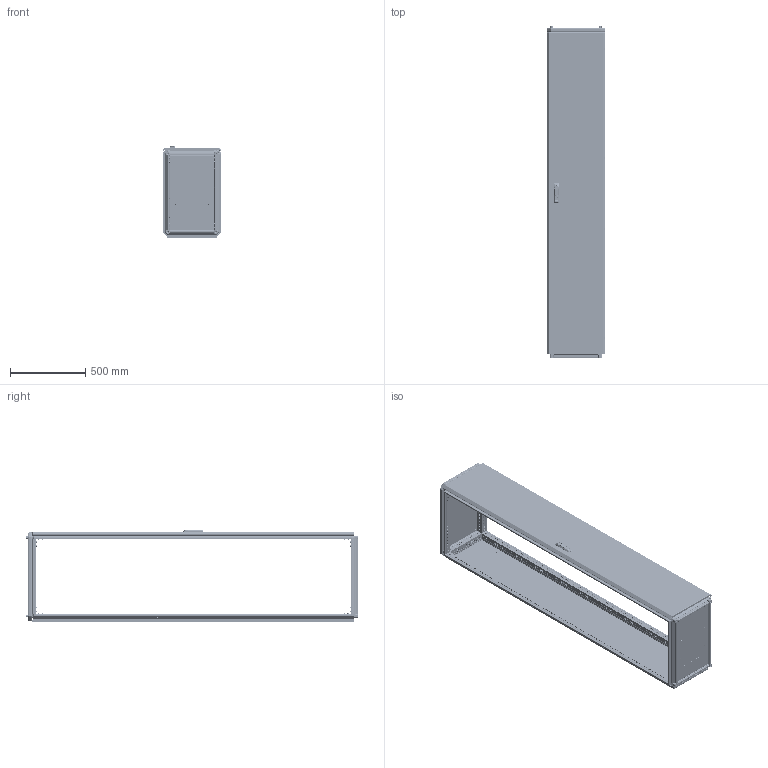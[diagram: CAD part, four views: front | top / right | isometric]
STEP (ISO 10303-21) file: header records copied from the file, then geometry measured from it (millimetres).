
FILE_DESCRIPTION (( 'STEP AP203' ), '1' );
FILE_NAME ('MA1.000.040622.10.00 AleSta2246 Øêàô AleSta 400õ600õ2200.STEP', '2024-08-23T08:41:23', ( '' ), ( '' ), 'SwSTEP 2.0', 'SolidWorks 2021', '' );
FILE_SCHEMA (( 'CONFIG_CONTROL_DESIGN' ));
Length unit declared in the file: millimetre
Products named in the file (50): äåðæàòåëü_êðóãëîé_òÿãèRG002-RG1010-2-i-RG1010-3-.stp; Øïèëüêà Ì6õ12_˜¯¨«ìª  Œ6å20; MA1.101.060620.10.01 Ïîëîòíî êðûøè 600õ600_400å600; Âèíò ðåçüáîâûäàâëèâàþùèé Ì6õ12 DIN 7500E_Œ6å10; Óïëîòíèòåëü ïàíåëè íèæíåé_  ‚=2200; Âèíò ñ âí. øåñòèãðàííèêîì M12 DIN912_•30; Îñü ïåòëè 4õ52_‚¨­â A.M4x0,5x40 ƒŽ‘’ 11644-75; MA1.101.060620.20.00 Íèæíÿÿ ïàíåëü 600õ600_400å600; MA1.102.060620.00.01 Ïðîôèëü âåðòèêàëüíûé ñâàðíîé_05 L=2098 (‚=2200); MS463-2-3(1); MA1.100.060620.00.01 Ñîåäèíèòåëü óãëîâîé_00; MA1.200.060620.30.00 AleSta-D20M600 Äâåðü ñïëîøíàÿ äëÿ øêàôîâ ALESTA ÂõØ 2000õ600_2200å400; Ãàéêà ñàìîêîíòðÿùàÿñÿ ñ íåéëîíîâîé âñòàâêîé Ì6 DIN 985, êëàññ ïðî÷íîñòè 8, îöèíêîâàííàÿ ñòàëü_Œ5; Áîëò øåñòèãðàííûé Ì5õ12 DIN 933, êëàññ ïðî÷íîñòè 8.8, îöèíêîâàííàÿ ñòàëü; MA1.101.060620.00.00 AleSta-RB66 Êîìïëåêò êðûøà è îñíîâàíèå_ 400å600; Ïðîáêà ïëàñòèêîâàÿ óíèâåðñàëüíàÿ ïîä îòâåðñòèå 4,5 ìì, ñåðèÿ ST, öâåò áåñöâåòíûé – ST4,5; Âèíò ñàìîíàðåçàþùèé ñ ïîòàéíîé ãîëîâêîé Ì5x14 DIN 7500 M TORX, êëàññ ïðî÷íîñòè 8.8, îöèíêîâàííàÿ ñòàëü_Œ5å14; MA1.000.040622.10.00 AleSta2246 Øêàô AleSta 400õ600õ2200; MA1.200.060620.31.00 Äâåðü ñïëîøíàÿ äëÿ øêàôîâ ALESTA ÂõØ 2000õ600_2200å400; Øïèëüêà Ì6õ12_˜¯¨«ìª  Œ6å16; Íàâåñêà íà êîðïóñ ïîä êëåïêó; Ãàéêà ñàìîêîíòðÿùàÿñÿ ñ íåéëîíîâîé âñòàâêîé Ì6 DIN 985, êëàññ ïðî÷íîñòè 8, îöèíêîâàííàÿ ñòàëü_Œ6; MA1.200.060620.31.01 Ïîëîòíî äâåðè ñïëîøíîé 2000õ600_2200å400; êðåïëåíèå_êðóãëîé_òÿãè_RG1020-1.stp; MA1.101.060620.20.02 Çàêðûòèå íèæíåé ïàíåëè 600õ600_400å600; MA1.102.060620.00.00 AleSta-VG2000 Ñòîéêè âåðòèêàëüíûå, Â=2000ìì  (4øò)_ 400å600; MA1.200.060620.10.00 AleSta-PR206  Ïàíåëü çàäíÿÿ, äëÿ øêàôîâ ALESTA, 2000 x 600_2200å400; MA1.101.060620.00.02 Ïðîôèëü ïîïåðå÷íûé ñâàðíîé_01 L=498 (˜=600); Øàéáà ñòîïîðíàÿ ñ íàðóæíûìè çóáöàìè SCHNORR, òèï VS öèíêîâûå õëîïüÿ Ì6 O6,4 ART 88121_Œ6; Øïèëüêà Ì6õ12_˜¯¨«ìª  Œ6å12; Âèíò ñàìîíàðåçàþùèé ñ ïîòàéíîé ãîëîâêîé Ì5x14 DIN 7500 M TORX, êëàññ ïðî÷íîñòè 8.8, îöèíêîâàííàÿ ñòàëü_Œ5å12; MA1.101.060620.10.00 ﾊ 600x600_400x600; MA1.200.060620.11.01 Ïîëîòíî çàäíåé ïàíåëè 2000õ600_2200å400; òÿãà_lg001-2.STEP_‚=2200; Âèíò_ðåçüáîâûäàâëèâàþùèé_Ì5õ12_DIN 7500E_Œ5å12; MA1.200.060620.31.05 Óãëîâîé óïîð äâåðíîé òÿãè; ﾘ琺矜 65ﾃ 019 ﾃﾎﾑﾒ 6402-70_12; Ïåòëÿ íà äâåðü ï-îáðàçíàÿ; MA1.101.060620.20.01 Ïîëîòíî íèæíåé ïàíåëè 600õ600_400å600; ﾘ琺矜 01.019 ﾃﾎﾑﾒ11371-78_12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
Assembly tree (337 placements, depth 4):
  Ïðîáêà ïëàñòèêîâàÿ óíèâåðñàëüíàÿ ïîä îòâåðñòèå 4,5 ìì, ñåðèÿ ST, öâåò áåñöâåòíûé – ST4,5
  MA1.000.040622.10.00 AleSta2246 Øêàô AleSta 400õ600õ2200
    MA1.101.060620.00.00 AleSta-RB66 Êîìïëåêò êðûøà è îñíîâàíèå_ 400å600
      MA1.101.060620.00.02 Ïðîôèëü ïîïåðå÷íûé ñâàðíîé_01 L=498 (˜=600)  x4
      MA1.101.060620.00.02 Ïðîôèëü ïîïåðå÷íûé ñâàðíîé_00 L=298 (˜=400)  x4
      MA1.101.060620.10.00 ﾊ 600x600_400x600
        MA1.101.060620.10.01 Ïîëîòíî êðûøè 600õ600_400å600
        Øïèëüêà Ì6õ12_˜¯¨«ìª  Œ6å12  x4
        Óïëîòíèòåëü ïàíåëè íèæíåé_400x600
      MA1.101.060620.20.00 Íèæíÿÿ ïàíåëü 600õ600_400å600
        MA1.101.060620.20.01 Ïîëîòíî íèæíåé ïàíåëè 600õ600_400å600
        ﾇﾀﾊﾋﾅﾏﾊﾀ ﾃﾀﾅﾗﾍﾀﾟ ﾘﾅﾑﾒﾈﾃﾐﾀﾍﾍﾀﾟ ﾑ ﾓﾌﾅﾍﾜﾘﾅﾍﾍﾛﾌ ﾁﾎﾐﾒﾎﾌ M4 X 11 (0.5-2.5 ﾌﾌ) HEX U-S ﾖﾈﾍﾊ  x4
        MA1.101.060620.20.02 Çàêðûòèå íèæíåé ïàíåëè 600õ600_400å600  x2
        7380-2 ISO Âèíòû ñ ïîëóêðóãëîé ãîëîâêîé ñ ôëàíöåì ñ âíóòðåííèì øåñòèãðàííèêîì Ì4õ10  x4
      Âèíò_ðåçüáîâûäàâëèâàþùèé_Ì5õ12_DIN 7500E_Œ5å12  x8
      MA1.100.060620.00.01 Ñîåäèíèòåëü óãëîâîé_00  x8
      Âèíò ñ âí. øåñòèãðàííèêîì M12 DIN912_•30  x4
      Âèíò ðåçüáîâûäàâëèâàþùèé Ì6õ12 DIN 7500E_Œ6å10  x96
      ﾘ琺矜 01.019 ﾃﾎﾑﾒ11371-78_12  x4
      ﾘ琺矜 65ﾃ 019 ﾃﾎﾑﾒ 6402-70_12  x4
      Øàéáà ñòîïîðíàÿ ñ íàðóæíûìè çóáöàìè SCHNORR, òèï VS öèíêîâûå õëîïüÿ Ì6 O6,4 ART 88121_Œ6  x80
    MA1.102.060620.00.00 AleSta-VG2000 Ñòîéêè âåðòèêàëüíûå, Â=2000ìì  (4øò)_ 400å600
      MA1.102.060620.00.01 Ïðîôèëü âåðòèêàëüíûé ñâàðíîé_05 L=2098 (‚=2200)  x4
    MA1.200.060620.10.00 AleSta-PR206  Ïàíåëü çàäíÿÿ, äëÿ øêàôîâ ALESTA, 2000 x 600_2200å400
      MA1.200.060620.11.00 Ïàíåëü çàäíÿÿ, äëÿ øêàôîâ AleSta, 2000x600_2200å400
        MA1.200.060620.11.01 Ïîëîòíî çàäíåé ïàíåëè 2000õ600_2200å400
        Óïëîòíèòåëü ïàíåëè íèæíåé_  ‚=2200
        Øïèëüêà Ì6õ12_˜¯¨«ìª  Œ6å12  x4
      Âèíò ñàìîíàðåçàþùèé ñ ïîòàéíîé ãîëîâêîé Ì5x14 DIN 7500 M TORX, êëàññ ïðî÷íîñòè 8.8, îöèíêîâàííàÿ ñòàëü_Œ5å14  x8
    MA1.200.060620.30.00 AleSta-D20M600 Äâåðü ñïëîøíàÿ äëÿ øêàôîâ ALESTA ÂõØ 2000õ600_2200å400
      MA1.200.060620.31.00 Äâåðü ñïëîøíàÿ äëÿ øêàôîâ ALESTA ÂõØ 2000õ600_2200å400
        MA1.200.060620.31.01 Ïîëîòíî äâåðè ñïëîøíîé 2000õ600_2200å400
        Óïëîòíèòåëü ïàíåëè íèæíåé_  ‚=2200
        Øïèëüêà Ì6õ12_˜¯¨«ìª  Œ6å20  x16
        Øïèëüêà Ì6õ12_˜¯¨«ìª  Œ6å16  x4
        Ïåòëÿ íà äâåðü ï-îáðàçíàÿ  x4
      MA1.200.060620.31.03 Ðåéêà íà äâåðü ãîðèçîíòàëüíàÿ Ø = 600_˜=400  x2
      諘蜱齁罻 022 瀁錒瀔隮  x4
      MA1.200.060620.31.02 Ðåéêà íà äâåðü âåðòèêàëüíàÿ Â = 2000_‚ = 2200  x2
      äåðæàòåëü_êðóãëîé_òÿãèRG002-RG1010-2-i-RG1010-3-.stp  x2
      òÿãà_lg001-2.STEP_‚=2200  x2
      êðåïëåíèå_êðóãëîé_òÿãè_RG1020-1.stp  x2
      MS463-2-3(1)
      Ãàéêà ñàìîêîíòðÿùàÿñÿ ñ íåéëîíîâîé âñòàâêîé Ì6 DIN 985, êëàññ ïðî÷íîñòè 8, îöèíêîâàííàÿ ñòàëü_Œ6  x16
      Ãàéêà ñàìîêîíòðÿùàÿñÿ ñ íåéëîíîâîé âñòàâêîé Ì6 DIN 985, êëàññ ïðî÷íîñòè 8, îöèíêîâàííàÿ ñòàëü_Œ5  x2
      Áîëò øåñòèãðàííûé Ì5õ12 DIN 933, êëàññ ïðî÷íîñòè 8.8, îöèíêîâàííàÿ ñòàëü  x2
      MA1.200.060620.31.04 ðèãåëü çàìêà äâåðè
      MA1.200.060620.31.05 Óãëîâîé óïîð äâåðíîé òÿãè  x2
      Âèíò_ðåçüáîâûäàâëèâàþùèé_Ì5õ12_DIN 7500E_00  x2
      Íàâåñêà íà êîðïóñ ïîä êëåïêó  x4
      Îñü ïåòëè 4õ52_‚¨­â A.M4x0,5x40 ƒŽ‘’ 11644-75  x4
      Âèíò ñàìîíàðåçàþùèé ñ ïîòàéíîé ãîëîâêîé Ì5x14 DIN 7500 M TORX, êëàññ ïðî÷íîñòè 8.8, îöèíêîâàííàÿ ñòàëü_Œ5å12  x8
Bounding box: 392 x 2210.9 x 616.8 mm (x, y, z)
Volume: 8076917.9 mm3; surface area: 9861086.1 mm2
Topology: 364 solids, 378 shells, 23819 faces, 61494 edges, 38504 vertices
Faces by surface type: plane 14249, cylinder 6877, bspline 921, cone 845, torus 829, sphere 98
Entity records: 249896 total; most frequent: CARTESIAN_POINT 80041, ORIENTED_EDGE 32498, DIRECTION 31968, EDGE_CURVE 16266, AXIS2_PLACEMENT_3D 10960, VERTEX_POINT 10141, VECTOR 10048, LINE 10048
